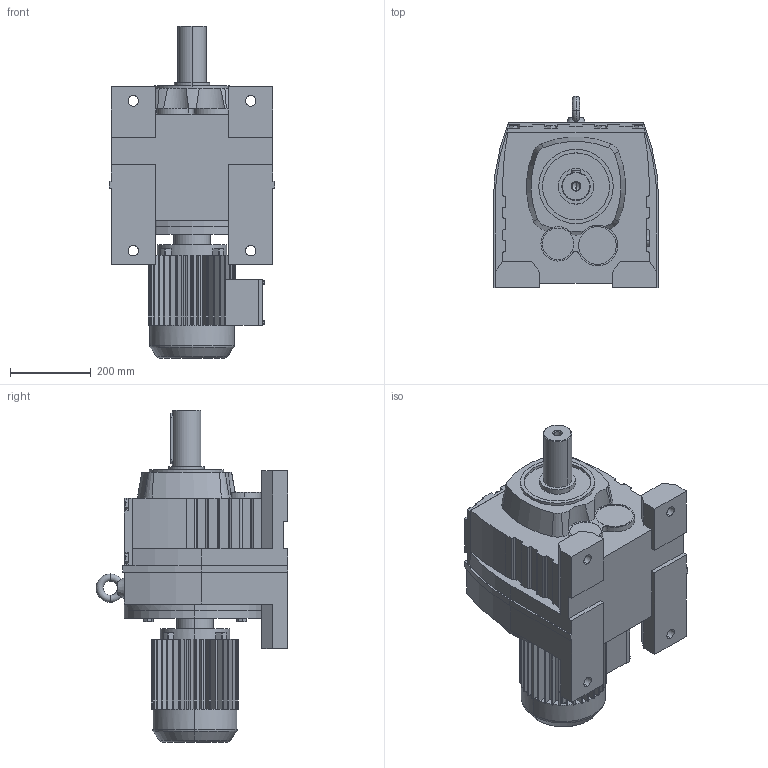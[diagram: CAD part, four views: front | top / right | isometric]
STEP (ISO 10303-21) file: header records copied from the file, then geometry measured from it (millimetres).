
FILE_DESCRIPTION(('Open CASCADE Model'),'2;1');
FILE_NAME('Open CASCADE Shape Model','2021-07-14T10:17:27',('Author'),( 'Open CASCADE'),'Open CASCADE STEP processor 6.3','Open CASCADE 6.3' ,'Unknown');
FILE_SCHEMA(('AUTOMOTIVE_DESIGN_CC2 { 1 2 10303 214 -1 1 5 4 }'));
Length unit declared in the file: millimetre
Products named in the file (3): 1_R107-Y100M; R37‵167_107.step; 萇儂_350_Y100M.step
Assembly tree (2 placements, depth 2):
  1_R107-Y100M
    R37‵167_107.step
    萇儂_350_Y100M.step
Bounding box: 409 x 473.5 x 820 mm (x, y, z)
Volume: 57574775 mm3; surface area: 1726204.1 mm2
Topology: 2 solids, 2 shells, 742 faces, 1984 edges, 1283 vertices
Faces by surface type: plane 525, cylinder 187, cone 20, torus 10
Entity records: 51787 total; most frequent: CARTESIAN_POINT 13971, DIRECTION 6591, ORIENTED_EDGE 3964, PCURVE 3964, DEFINITIONAL_REPRESENTATION 3964, LINE 3699, VECTOR 3699, EDGE_CURVE 1982
